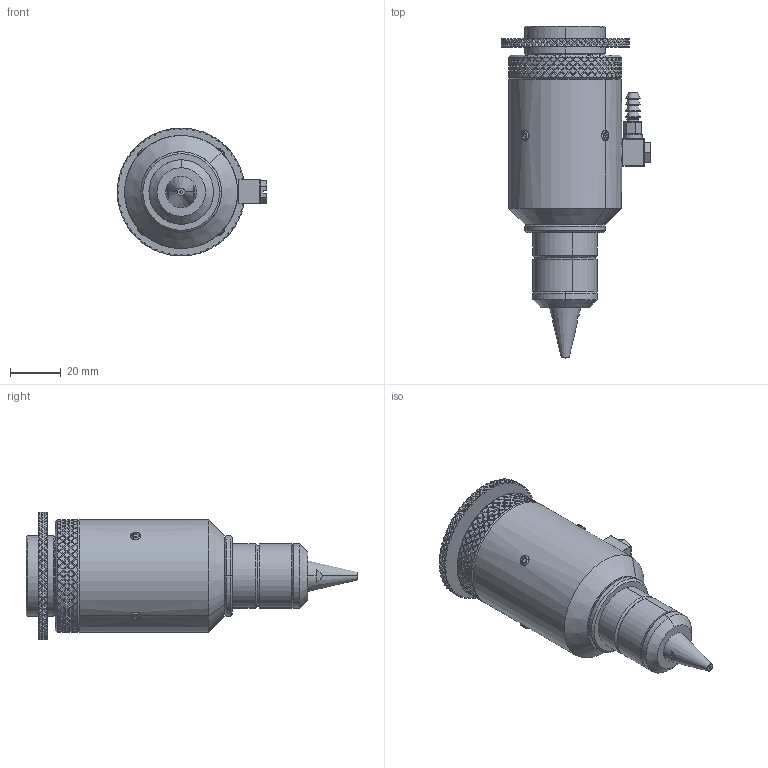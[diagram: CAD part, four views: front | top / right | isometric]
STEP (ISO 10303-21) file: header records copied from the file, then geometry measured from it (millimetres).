
FILE_DESCRIPTION (( 'STEP AP214' ), '1' );
FILE_NAME ('PHA-25-25-089-LB.STEP', '2016-10-10T18:07:37', ( '' ), ( '' ), 'SwSTEP 2.0', 'SolidWorks 2016', '' );
FILE_SCHEMA (( 'AUTOMOTIVE_DESIGN' ));
Length unit declared in the file: inch
Products named in the file (1): PHA-25-25-089-LB
Bounding box: 58.8 x 130.68 x 50.29 mm (x, y, z)
Volume: 119496.5 mm3; surface area: 22325.8 mm2
Topology: 1 solids, 1 shells, 2811 faces, 6208 edges, 3406 vertices
Faces by surface type: plane 2116, cylinder 598, cone 40, torus 37, sphere 20
Entity records: 74124 total; most frequent: CARTESIAN_POINT 19501, ORIENTED_EDGE 12376, DIRECTION 10170, EDGE_CURVE 6188, VERTEX_POINT 3406, AXIS2_PLACEMENT_3D 3397, VECTOR 3376, LINE 3376
